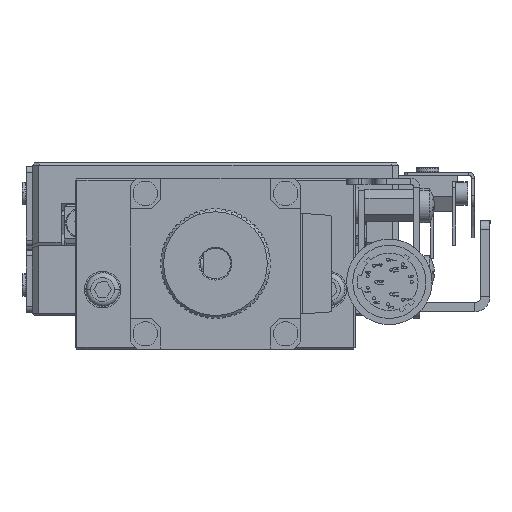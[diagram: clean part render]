
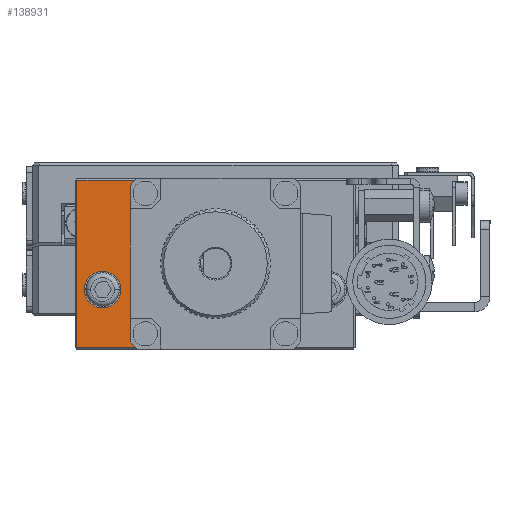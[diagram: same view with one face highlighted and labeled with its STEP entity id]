
A CAD part, left-side view. The second image highlights one B-rep face of the part: STEP entity #138931.
In plain terms, the highlighted planar face has unit normal (-1, 0, 0).
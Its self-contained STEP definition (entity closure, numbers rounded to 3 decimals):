
#5013 = VECTOR ( 'NONE', #64994, 1000. ) ;
#6355 = CARTESIAN_POINT ( 'NONE',  ( -63., 36.5, -15. ) ) ;
#6711 = LINE ( 'NONE', #85073, #112295 ) ;
#7365 = CARTESIAN_POINT ( 'NONE',  ( -63., 59.2, -1.3 ) ) ;
#10117 = CARTESIAN_POINT ( 'NONE',  ( -63., 36.5, -28.7 ) ) ;
#13904 = AXIS2_PLACEMENT_3D ( 'NONE', #100835, #69407, #110826 ) ;
#16088 = EDGE_LOOP ( 'NONE', ( #118844, #105993, #20040, #106155, #50689, #114850 ) ) ;
#17249 = CARTESIAN_POINT ( 'NONE',  ( -63., 55., -19.25 ) ) ;
#18293 = CIRCLE ( 'NONE', #136842, 3. ) ;
#18798 = CIRCLE ( 'NONE', #112205, 19. ) ;
#20040 = ORIENTED_EDGE ( 'NONE', *, *, #61780, .T. ) ;
#20899 = FACE_OUTER_BOUND ( 'NONE', #16088, .T. ) ;
#21525 = DIRECTION ( 'NONE',  ( 0., -1., 0. ) ) ;
#21980 = CARTESIAN_POINT ( 'NONE',  ( -63., 50.5, -2.155 ) ) ;
#24597 = CARTESIAN_POINT ( 'NONE',  ( -63., 58., -19.25 ) ) ;
#27905 = EDGE_CURVE ( 'NONE', #121946, #45711, #108517, .T. ) ;
#28546 = CARTESIAN_POINT ( 'NONE',  ( -63., 52., -19.25 ) ) ;
#30974 = LINE ( 'NONE', #75863, #92364 ) ;
#33264 = CARTESIAN_POINT ( 'NONE',  ( -63., 49.665, -1.3 ) ) ;
#45583 = EDGE_CURVE ( 'NONE', #45711, #141232, #57058, .T. ) ;
#45711 = VERTEX_POINT ( 'NONE', #21980 ) ;
#47964 = EDGE_CURVE ( 'NONE', #57242, #82017, #130069, .T. ) ;
#49101 = VERTEX_POINT ( 'NONE', #75706 ) ;
#49863 = DIRECTION ( 'NONE',  ( 1., 0., 0. ) ) ;
#50689 = ORIENTED_EDGE ( 'NONE', *, *, #112701, .F. ) ;
#55806 = PLANE ( 'NONE',  #62668 ) ;
#57058 = CIRCLE ( 'NONE', #63852, 19. ) ;
#57242 = VERTEX_POINT ( 'NONE', #24597 ) ;
#60735 = DIRECTION ( 'NONE',  ( 0., -1., 0. ) ) ;
#61089 = EDGE_LOOP ( 'NONE', ( #118604, #93283 ) ) ;
#61780 = EDGE_CURVE ( 'NONE', #75900, #49101, #30974, .T. ) ;
#62170 = DIRECTION ( 'NONE',  ( -1., 0., 0. ) ) ;
#62668 = AXIS2_PLACEMENT_3D ( 'NONE', #107897, #97907, #76455 ) ;
#63852 = AXIS2_PLACEMENT_3D ( 'NONE', #6355, #49863, #136929 ) ;
#64994 = DIRECTION ( 'NONE',  ( 0., 0., 1. ) ) ;
#69407 = DIRECTION ( 'NONE',  ( -1., 0., 0. ) ) ;
#70644 = VERTEX_POINT ( 'NONE', #135885 ) ;
#75140 = DIRECTION ( 'NONE',  ( 0., 0., -1. ) ) ;
#75706 = CARTESIAN_POINT ( 'NONE',  ( -63., 59.2, -28.7 ) ) ;
#75863 = CARTESIAN_POINT ( 'NONE',  ( -63., 59.2, -15. ) ) ;
#75900 = VERTEX_POINT ( 'NONE', #7365 ) ;
#76455 = DIRECTION ( 'NONE',  ( 0., 0., -1. ) ) ;
#76559 = DIRECTION ( 'NONE',  ( 0., 0., -1. ) ) ;
#81692 = EDGE_CURVE ( 'NONE', #49101, #70644, #117130, .T. ) ;
#81931 = CARTESIAN_POINT ( 'NONE',  ( -63., 50.5, -27.845 ) ) ;
#82017 = VERTEX_POINT ( 'NONE', #28546 ) ;
#84285 = CARTESIAN_POINT ( 'NONE',  ( -63., 50.5, -27.845 ) ) ;
#85073 = CARTESIAN_POINT ( 'NONE',  ( -63., 36.5, -1.3 ) ) ;
#85814 = CARTESIAN_POINT ( 'NONE',  ( -63., 36.5, -15. ) ) ;
#86752 = EDGE_CURVE ( 'NONE', #141232, #75900, #6711, .T. ) ;
#92364 = VECTOR ( 'NONE', #76559, 1000. ) ;
#93283 = ORIENTED_EDGE ( 'NONE', *, *, #47964, .F. ) ;
#97907 = DIRECTION ( 'NONE',  ( 1., 0., 0. ) ) ;
#99306 = FACE_BOUND ( 'NONE', #61089, .T. ) ;
#100835 = CARTESIAN_POINT ( 'NONE',  ( -63., 55., -19.25 ) ) ;
#105993 = ORIENTED_EDGE ( 'NONE', *, *, #86752, .T. ) ;
#106155 = ORIENTED_EDGE ( 'NONE', *, *, #81692, .T. ) ;
#107897 = CARTESIAN_POINT ( 'NONE',  ( -63., 36.5, -15. ) ) ;
#108517 = LINE ( 'NONE', #84285, #5013 ) ;
#110826 = DIRECTION ( 'NONE',  ( 0., -1., 0. ) ) ;
#112205 = AXIS2_PLACEMENT_3D ( 'NONE', #85814, #129401, #75140 ) ;
#112295 = VECTOR ( 'NONE', #139373, 1000. ) ;
#112701 = EDGE_CURVE ( 'NONE', #121946, #70644, #18798, .T. ) ;
#114850 = ORIENTED_EDGE ( 'NONE', *, *, #27905, .T. ) ;
#116654 = EDGE_CURVE ( 'NONE', #82017, #57242, #18293, .T. ) ;
#117130 = LINE ( 'NONE', #10117, #134415 ) ;
#118604 = ORIENTED_EDGE ( 'NONE', *, *, #116654, .F. ) ;
#118844 = ORIENTED_EDGE ( 'NONE', *, *, #45583, .T. ) ;
#121946 = VERTEX_POINT ( 'NONE', #81931 ) ;
#129401 = DIRECTION ( 'NONE',  ( -1., 0., 0. ) ) ;
#130069 = CIRCLE ( 'NONE', #13904, 3. ) ;
#134415 = VECTOR ( 'NONE', #21525, 1000. ) ;
#135885 = CARTESIAN_POINT ( 'NONE',  ( -63., 49.665, -28.7 ) ) ;
#136842 = AXIS2_PLACEMENT_3D ( 'NONE', #17249, #62170, #60735 ) ;
#136929 = DIRECTION ( 'NONE',  ( 0., 0., -1. ) ) ;
#138931 = ADVANCED_FACE ( 'NONE', ( #20899, #99306 ), #55806, .F. ) ;
#139373 = DIRECTION ( 'NONE',  ( 0., 1., 0. ) ) ;
#141232 = VERTEX_POINT ( 'NONE', #33264 ) ;
